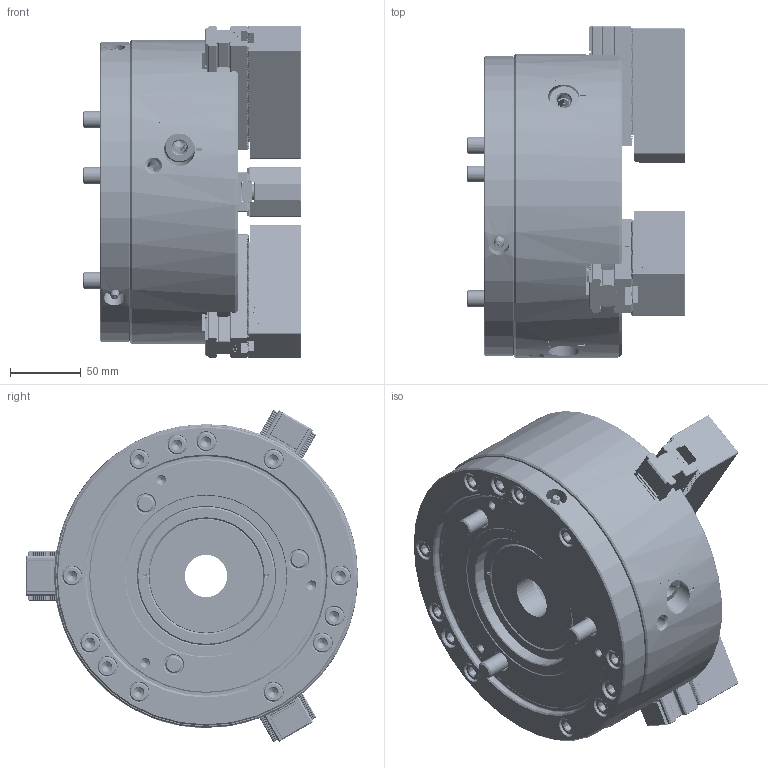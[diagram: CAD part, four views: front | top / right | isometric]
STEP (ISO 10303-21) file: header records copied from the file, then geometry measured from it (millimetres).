
FILE_DESCRIPTION (( 'STEP AP214' ), '1' );
FILE_NAME ('QJR08_61P261581-3_HCL.STEP', '2026-03-12T05:10:11', ( '' ), ( '' ), 'SwSTEP 2.0', 'SolidWorks 2022', '' );
FILE_SCHEMA (( 'AUTOMOTIVE_DESIGN' ));
Length unit declared in the file: millimetre
Products named in the file (8): DT1_QJR08_SOFTJAW^DT1_QJR08; Copy of 0030112035^DT1_QJR08; DT1_QJR08_BASEJAW^DT1_QJR08; Copy (2) of 0030112035^DT1_QJR08; DT1_QJR08_BASE^DT1_QJR08; QJR08_61P261581-3_HCL; DT1_QJR08_DRAWNUT^DT1_QJR08; DT1_QJR08_M12x95^DT1_QJR08
Assembly tree (17 placements, depth 2):
  QJR08_61P261581-3_HCL
    DT1_QJR08_DRAWNUT^DT1_QJR08
    DT1_QJR08_SOFTJAW^DT1_QJR08  x3
    DT1_QJR08_M12x95^DT1_QJR08  x3
    DT1_QJR08_BASEJAW^DT1_QJR08  x3
    DT1_QJR08_BASE^DT1_QJR08
    Copy of 0030112035^DT1_QJR08  x3
    Copy (2) of 0030112035^DT1_QJR08  x3
Bounding box: 154.45 x 234.92 x 234.56 mm (x, y, z)
Volume: 3407840.2 mm3; surface area: 391860.8 mm2
Topology: 17 solids, 95 shells, 9571 faces, 26401 edges, 17274 vertices
Faces by surface type: plane 5485, cylinder 1985, bspline 1388, cone 586, torus 115, sphere 12
Entity records: 242296 total; most frequent: CARTESIAN_POINT 98989, ORIENTED_EDGE 32722, DIRECTION 24565, EDGE_CURVE 16361, VERTEX_POINT 10716, VECTOR 10439, LINE 10439, AXIS2_PLACEMENT_3D 7063
